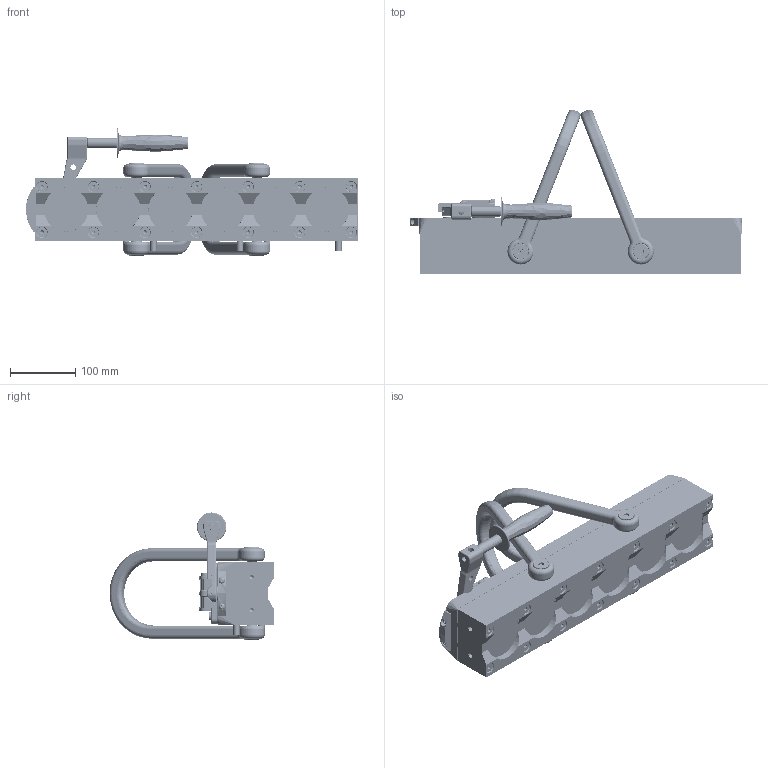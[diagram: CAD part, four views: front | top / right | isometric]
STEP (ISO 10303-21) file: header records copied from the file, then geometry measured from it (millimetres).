
FILE_DESCRIPTION (( 'STEP AP214' ), '1' );
FILE_NAME ('8000482.STEP', '2020-03-10T16:07:49', ( '' ), ( '' ), 'SwSTEP 2.0', 'SolidWorks 2018', '' );
FILE_SCHEMA (( 'AUTOMOTIVE_DESIGN' ));
Length unit declared in the file: millimetre
Products named in the file (12): 320393; 8000482; 180152; 7000114_p; 180515_90278A334; 7050053_p_defeature; 180059; 180410_92981A495; 7030008_p; 400026; 7010073_p; 180438
Assembly tree (32 placements, depth 2):
  8000482
    7000114_p
    7010073_p
    400026
    180059  x7
    180152  x7
    320393  x2
    180515_90278A334  x5
    180410_92981A495  x4
    180438  x2
    7030008_p
    7050053_p_defeature
Bounding box: 510.26 x 253.3 x 195.35 mm (x, y, z)
Volume: 4535078.1 mm3; surface area: 602450.7 mm2
Topology: 32 solids, 76 shells, 7075 faces, 17226 edges, 10336 vertices
Faces by surface type: cylinder 2713, plane 2250, cone 1522, bspline 354, torus 206, sphere 30
Entity records: 351676 total; most frequent: CARTESIAN_POINT 234172, ORIENTED_EDGE 18970, DIRECTION 16635, EDGE_CURVE 9485, AXIS2_PLACEMENT_3D 6303, VERTEX_POINT 5829, EDGE_LOOP 4122, VECTOR 4029
